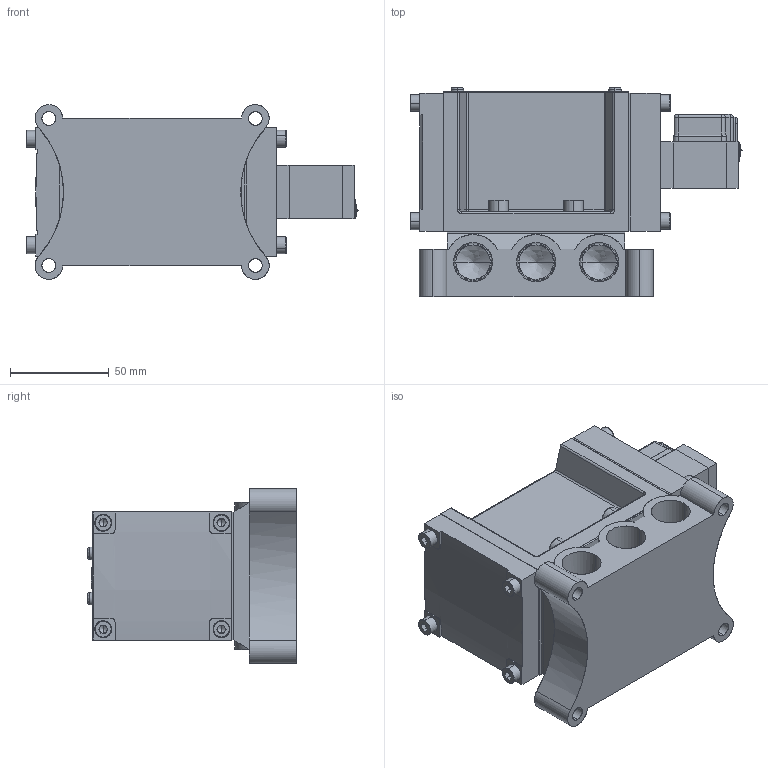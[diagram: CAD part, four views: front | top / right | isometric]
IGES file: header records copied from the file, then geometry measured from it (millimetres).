
Start section: SolidWorks IGES file using analytic representation for surfaces
Global section: file name: C:\Users\Toshiba\Desktop\PMS2410#-04-#G#.IGS; native system: SolidWorks 2014; preprocessor: SolidWorks 2014; author: Toshiba; date: 160122.142325; units: millimetre
Bounding box: 168.47 x 106.35 x 88.61 mm (x, y, z)
Surface area: 151735 mm2 (no closed solid volume)
Topology: 0 solids, 0 shells, 918 faces, 10146 edges, 10097 vertices
Faces by surface type: bspline 566, revolution 352
